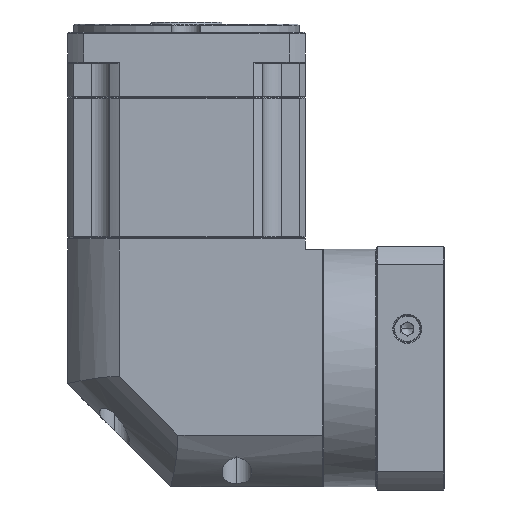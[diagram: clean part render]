
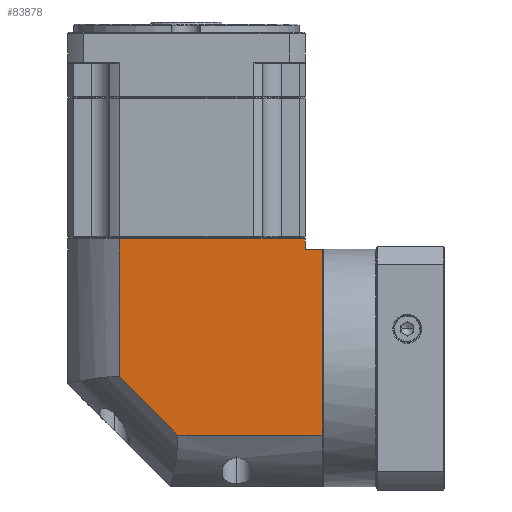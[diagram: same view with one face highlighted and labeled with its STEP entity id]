
A CAD part, left-side view. The second image highlights one B-rep face of the part: STEP entity #83878.
In plain terms, the highlighted planar face has unit normal (-1, 0, 0).
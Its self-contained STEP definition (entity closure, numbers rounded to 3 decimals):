
#3626 = CARTESIAN_POINT ( 'NONE',  ( 25.145, -18.587, 242.9 ) ) ;
#5853 = ORIENTED_EDGE ( 'NONE', *, *, #56535, .F. ) ;
#7185 = EDGE_CURVE ( 'NONE', #57255, #86031, #161299, .T. ) ;
#15556 = DIRECTION ( 'NONE',  ( 0., 1., 0. ) ) ;
#15917 = EDGE_CURVE ( 'NONE', #81795, #97572, #84982, .T. ) ;
#16854 = CARTESIAN_POINT ( 'NONE',  ( 25.145, 96.413, 249.4 ) ) ;
#17965 = LINE ( 'NONE', #90307, #121667 ) ;
#28029 = ORIENTED_EDGE ( 'NONE', *, *, #41146, .F. ) ;
#30014 = DIRECTION ( 'NONE',  ( 0., 1., 0. ) ) ;
#35237 = VERTEX_POINT ( 'NONE', #140965 ) ;
#35461 = LINE ( 'NONE', #107376, #70084 ) ;
#39292 = ORIENTED_EDGE ( 'NONE', *, *, #81317, .T. ) ;
#41146 = EDGE_CURVE ( 'NONE', #97572, #35237, #70991, .T. ) ;
#41160 = CARTESIAN_POINT ( 'NONE',  ( 25.145, 96.413, 148. ) ) ;
#42456 = PLANE ( 'NONE',  #112288 ) ;
#54816 = CARTESIAN_POINT ( 'NONE',  ( 25.145, -18.587, 237.9 ) ) ;
#56535 = EDGE_CURVE ( 'NONE', #86031, #76144, #17965, .T. ) ;
#57255 = VERTEX_POINT ( 'NONE', #72454 ) ;
#58182 = ORIENTED_EDGE ( 'NONE', *, *, #157201, .F. ) ;
#64190 = ORIENTED_EDGE ( 'NONE', *, *, #132015, .T. ) ;
#70084 = VECTOR ( 'NONE', #106289, 1000. ) ;
#70662 = CARTESIAN_POINT ( 'NONE',  ( 25.145, 42.975, 148. ) ) ;
#70991 = LINE ( 'NONE', #41160, #152341 ) ;
#72454 = CARTESIAN_POINT ( 'NONE',  ( 25.145, 71.313, 176.338 ) ) ;
#73874 = EDGE_LOOP ( 'NONE', ( #93772, #58182, #28029, #130484, #64190, #39292, #5853 ) ) ;
#76144 = VERTEX_POINT ( 'NONE', #3626 ) ;
#81317 = EDGE_CURVE ( 'NONE', #122908, #76144, #35461, .T. ) ;
#81795 = VERTEX_POINT ( 'NONE', #90788 ) ;
#83592 = CARTESIAN_POINT ( 'NONE',  ( 25.145, -18.587, 237.9 ) ) ;
#83878 = ADVANCED_FACE ( 'NONE', ( #104983 ), #42456, .F. ) ;
#84982 = LINE ( 'NONE', #87544, #154263 ) ;
#86031 = VERTEX_POINT ( 'NONE', #91418 ) ;
#87544 = CARTESIAN_POINT ( 'NONE',  ( 25.145, -26.987, 249.4 ) ) ;
#90307 = CARTESIAN_POINT ( 'NONE',  ( 25.145, 96.413, 242.9 ) ) ;
#90788 = CARTESIAN_POINT ( 'NONE',  ( 25.145, -26.987, 237.9 ) ) ;
#91418 = CARTESIAN_POINT ( 'NONE',  ( 25.145, 71.313, 242.9 ) ) ;
#92070 = VECTOR ( 'NONE', #132042, 1000. ) ;
#93763 = LINE ( 'NONE', #70662, #163019 ) ;
#93772 = ORIENTED_EDGE ( 'NONE', *, *, #7185, .F. ) ;
#97572 = VERTEX_POINT ( 'NONE', #137497 ) ;
#104822 = LINE ( 'NONE', #54816, #139397 ) ;
#104983 = FACE_OUTER_BOUND ( 'NONE', #73874, .T. ) ;
#106289 = DIRECTION ( 'NONE',  ( 0., 0., 1. ) ) ;
#107376 = CARTESIAN_POINT ( 'NONE',  ( 25.145, -18.587, 122.9 ) ) ;
#107755 = DIRECTION ( 'NONE',  ( 1., 0., 0. ) ) ;
#112288 = AXIS2_PLACEMENT_3D ( 'NONE', #16854, #107755, #30014 ) ;
#113678 = DIRECTION ( 'NONE',  ( 0., 0., -1. ) ) ;
#118923 = CARTESIAN_POINT ( 'NONE',  ( 25.145, 71.313, 249.4 ) ) ;
#121667 = VECTOR ( 'NONE', #168230, 1000. ) ;
#122908 = VERTEX_POINT ( 'NONE', #83592 ) ;
#130484 = ORIENTED_EDGE ( 'NONE', *, *, #15917, .F. ) ;
#132015 = EDGE_CURVE ( 'NONE', #81795, #122908, #104822, .T. ) ;
#132042 = DIRECTION ( 'NONE',  ( 0., 0., 1. ) ) ;
#133270 = DIRECTION ( 'NONE',  ( 0., 1., 0. ) ) ;
#137497 = CARTESIAN_POINT ( 'NONE',  ( 25.145, -26.987, 148. ) ) ;
#139397 = VECTOR ( 'NONE', #133270, 1000. ) ;
#140965 = CARTESIAN_POINT ( 'NONE',  ( 25.145, 42.975, 148. ) ) ;
#152341 = VECTOR ( 'NONE', #15556, 1000. ) ;
#154263 = VECTOR ( 'NONE', #113678, 1000. ) ;
#157201 = EDGE_CURVE ( 'NONE', #35237, #57255, #93763, .T. ) ;
#161299 = LINE ( 'NONE', #118923, #92070 ) ;
#161624 = DIRECTION ( 'NONE',  ( 0., 0.707, 0.707 ) ) ;
#163019 = VECTOR ( 'NONE', #161624, 1000. ) ;
#168230 = DIRECTION ( 'NONE',  ( 0., -1., 0. ) ) ;
